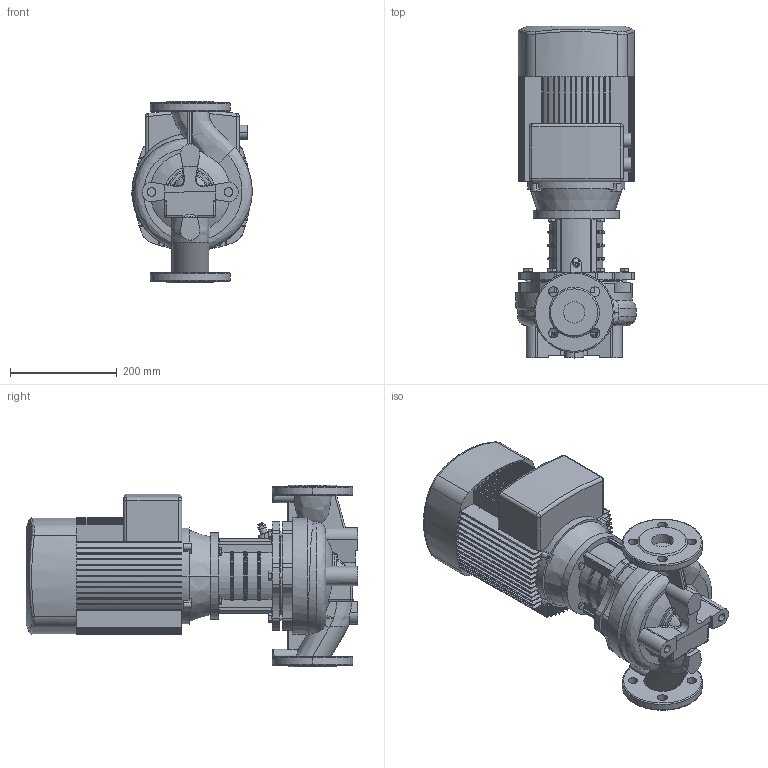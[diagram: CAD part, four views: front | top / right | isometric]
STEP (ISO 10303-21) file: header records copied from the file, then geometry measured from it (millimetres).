
FILE_DESCRIPTION(/* description */ (''),/* implementation_level */ '2;1');
FILE_NAME(/* name */ 'TD40-30-2安装尺寸图.stp',/* time_stamp */ '2026-09-07T15:04:11+08:00',/* author */ (''),/* organization */ (''),/* preprocessor_version */ 'ST-DEVELOPER v16.7',/* originating_system */ 'SIEMENS PLM Software NX 1847',/* authorisation */ '');
FILE_SCHEMA (('AP203_CONFIGURATION_CONTROLLED_3D_DESIGN_OF_MECHANICAL_PARTS_AND_ASSEMBLIES_MIM_LF { 1 0 10303 403 2 1 2}'));
Length unit declared in the file: millimetre
Products named in the file (1): Admi55F8EAC4z0b3
Bounding box: 224.93 x 621 x 340 mm (x, y, z)
Volume: 18607515.3 mm3; surface area: 1139037.8 mm2
Topology: 1 solids, 8 shells, 1150 faces, 3017 edges, 1888 vertices
Faces by surface type: plane 558, cylinder 338, torus 95, cone 74, bspline 51, sphere 34
Full cylindrical faces by diameter (mm): 7.76 x4, 8 x1, 9.732 x6, 10 x1, 11.63 x4, 12.9 x1, 14.63 x6, 160 x1
Entity records: 41300 total; most frequent: CARTESIAN_POINT 13306, ORIENTED_EDGE 5858, DIRECTION 5855, EDGE_CURVE 2929, AXIS2_PLACEMENT_3D 2188, VERTEX_POINT 1866, LINE 1479, VECTOR 1479
